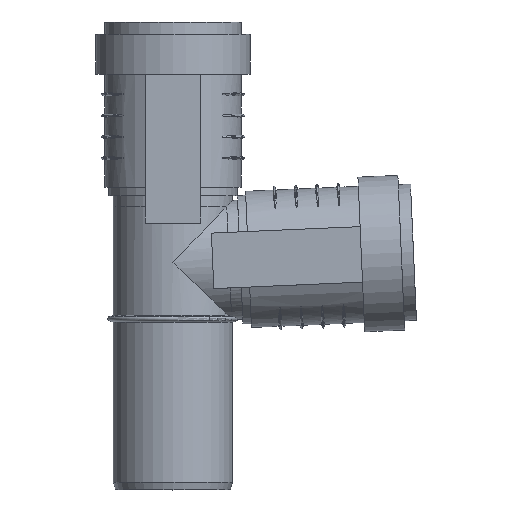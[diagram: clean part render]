
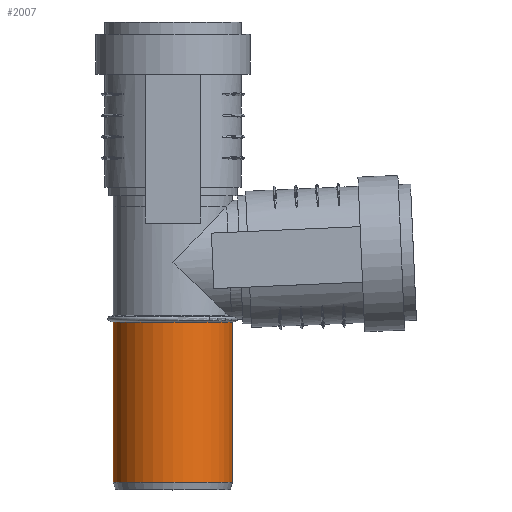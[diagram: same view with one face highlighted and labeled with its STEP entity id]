
A CAD part, top view. The second image highlights one B-rep face of the part: STEP entity #2007.
In plain terms, the highlighted cylindrical face has radius 16.075 mm (diameter 32.15 mm), a full revolution.
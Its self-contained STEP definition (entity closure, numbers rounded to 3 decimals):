
#363=CYLINDRICAL_SURFACE($,#2139,16.075);
#395=FACE_BOUND($,#579,.T.);
#470=FACE_OUTER_BOUND($,#578,.T.);
#578=EDGE_LOOP($,(#1334));
#579=EDGE_LOOP($,(#1335));
#758=CIRCLE($,#2137,16.075);
#760=CIRCLE($,#2140,16.075);
#854=VERTEX_POINT($,#2899);
#856=VERTEX_POINT($,#2904);
#1060=EDGE_CURVE($,#854,#854,#758,.T.);
#1062=EDGE_CURVE($,#856,#856,#760,.T.);
#1334=ORIENTED_EDGE($,*,*,#1062,.T.);
#1335=ORIENTED_EDGE($,*,*,#1060,.F.);
#2007=ADVANCED_FACE($,(#470,#395),#363,.T.);
#2137=AXIS2_PLACEMENT_3D($,#2900,#2369,#2370);
#2139=AXIS2_PLACEMENT_3D($,#2903,#2373,#2374);
#2140=AXIS2_PLACEMENT_3D($,#2905,#2375,#2376);
#2369=DIRECTION('center_axis',(0.,-1.,0.));
#2370=DIRECTION('ref_axis',(1.,0.,0.));
#2373=DIRECTION('center_axis',(0.,1.,0.));
#2374=DIRECTION('ref_axis',(1.,0.,0.));
#2375=DIRECTION('center_axis',(0.,-1.,0.));
#2376=DIRECTION('ref_axis',(1.,0.,0.));
#2899=CARTESIAN_POINT('',(-16.075,2.,0.));
#2900=CARTESIAN_POINT('Origin',(0.,2.,0.));
#2903=CARTESIAN_POINT('Origin',(0.,0.,0.));
#2904=CARTESIAN_POINT('',(-16.075,45.3,0.));
#2905=CARTESIAN_POINT('Origin',(0.,45.3,0.));
